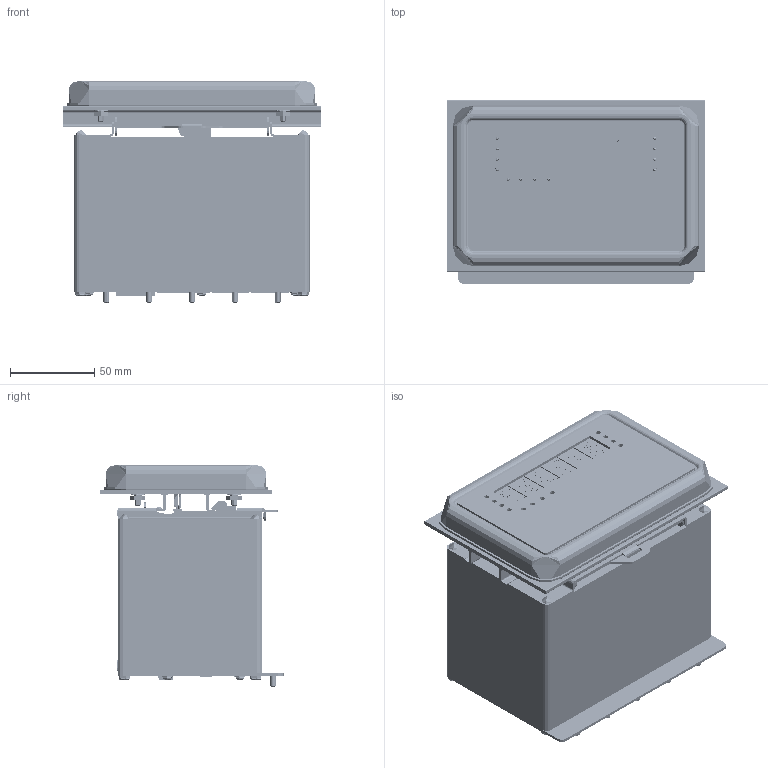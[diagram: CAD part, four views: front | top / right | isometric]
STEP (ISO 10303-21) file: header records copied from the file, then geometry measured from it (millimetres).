
FILE_DESCRIPTION (( 'STEP AP203' ), '1' );
FILE_NAME ('177979 - 880PM With Analog Option.STEP203.STEP', '2018-08-28T17:43:08', ( '' ), ( '' ), 'SwSTEP 2.0', 'SolidWorks 2017', '' );
FILE_SCHEMA (( 'CONFIG_CONTROL_DESIGN' ));
Length unit declared in the file: inch
Products named in the file (627): Panasonic_EEE1VA470WP; Components-CORP_TP-107; Cirrus_CS5532-BSZ; 130471; 175109RA; ANY_CAP0402; ANY_RES0603; CAPPC3216X150L50N; Diodes_SMBJ15CA-13-F_DIOM5436X244N; RESC4532X70L50N; 14621_65680; CAPC1608X90L35N; ANY_RES0402; 157171_C; MFG_LABEL_FIRMWARE_380x380; Yageo_FMP100JR-52-100R; 131601; PEM_FH4-632-14; Everspin_MR25H10CDC; Kemet_T491A226M010A; DIOM5436X244N; 131740; 166878_INSTALLED LENGTH; TI_74LVC2G241DCUR; CAPC3216X150L50N; 177253; JST_XHP-10; RAF_7228-B-B-16; 151667; 177290_1-Option; Kemet_T491A225K016AT; Murata_CSTCE8M00G15L99-R0; C&K_KSS323GLFG; National_LM3525M-L-NOPB; Taiyo-Yuden_UMK325BJ106MM-T; SOT95P240X110-3L30N; XFMRS_XFATM9_CTYG1_4MS; EPCOS_B32529C0474J; 43332_FH4-632-5; Keystone_502KE-ND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
Assembly tree (503 placements, depth 5):
  Components-CORP_TP-107
  Cirrus_CS5532-BSZ
  130471
  ANY_CAP0402
  ANY_RES0603
Bounding box: 152.4 x 108.75 x 131.17 mm (x, y, z)
Topology: 582 solids, 609 shells, 17050 faces, 44789 edges, 29217 vertices
Faces by surface type: plane 11597, cylinder 3437, bspline 1351, cone 552, torus 86, sphere 27
Full cylindrical faces by diameter (mm): 0.8 x1
Entity records: 458883 total; most frequent: CARTESIAN_POINT 131243, ORIENTED_EDGE 57144, DIRECTION 51259, EDGE_CURVE 28799, LINE 21955, VECTOR 21955, VERTEX_POINT 18894, AXIS2_PLACEMENT_3D 14652
